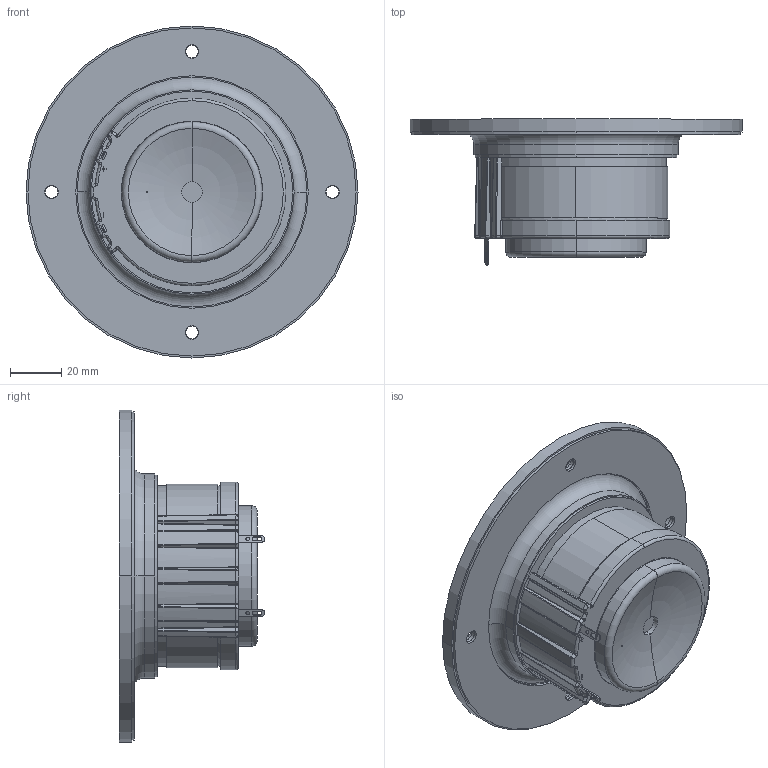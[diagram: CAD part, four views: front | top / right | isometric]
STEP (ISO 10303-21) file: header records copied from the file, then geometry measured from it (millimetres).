
FILE_DESCRIPTION (( 'STEP AP214' ), '1' );
FILE_NAME ('D2905-990000.STEP', '2020-11-24T09:23:15', ( '' ), ( '' ), 'SwSTEP 2.0', 'SolidWorks 2019', '' );
FILE_SCHEMA (( 'AUTOMOTIVE_DESIGN' ));
Length unit declared in the file: millimetre
Products named in the file (1): D2905-990000
Bounding box: 130 x 57.07 x 130 mm (x, y, z)
Volume: 223417.4 mm3; surface area: 50501.3 mm2
Topology: 1 solids, 11 shells, 456 faces, 1142 edges, 709 vertices
Faces by surface type: cylinder 188, plane 122, bspline 68, torus 57, cone 21
Entity records: 21350 total; most frequent: CARTESIAN_POINT 6293, ORIENTED_EDGE 2252, DIRECTION 1987, EDGE_CURVE 1126, AXIS2_PLACEMENT_3D 820, VERTEX_POINT 709, EDGE_LOOP 507, ADVANCED_FACE 456
